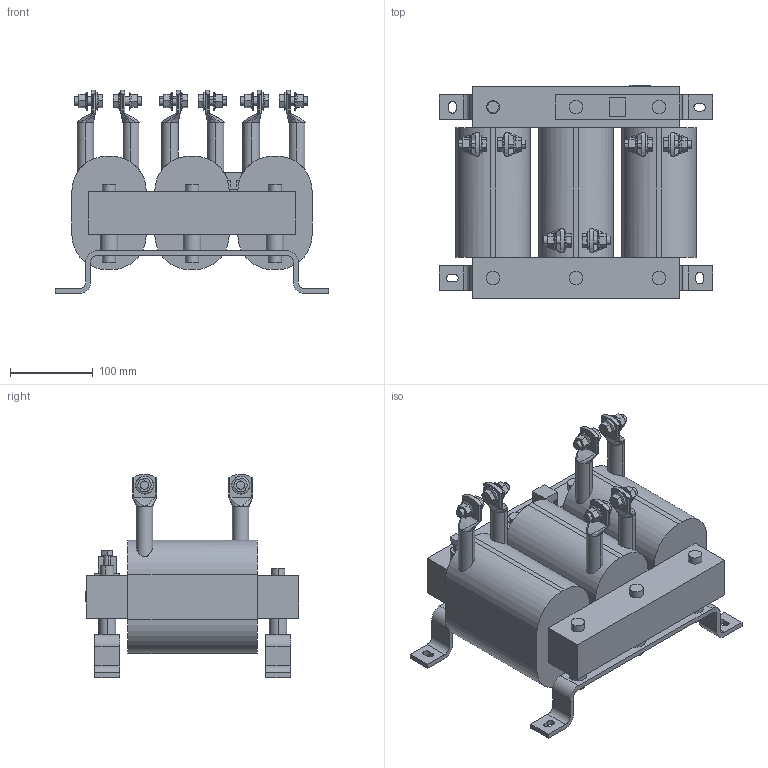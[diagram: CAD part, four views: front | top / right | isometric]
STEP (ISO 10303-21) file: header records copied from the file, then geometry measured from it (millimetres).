
FILE_DESCRIPTION (( 'STEP AP214' ), '1' );
FILE_NAME ('00Z1BX0-0026.STEP', '2024-05-15T07:39:01', ( '' ), ( '' ), 'SwSTEP 2.0', 'SolidWorks 2022', '' );
FILE_SCHEMA (( 'AUTOMOTIVE_DESIGN' ));
Length unit declared in the file: millimetre
Products named in the file (1): 00Z1BX0-0026
Bounding box: 330 x 257.52 x 244.92 mm (x, y, z)
Volume: 6703655.6 mm3; surface area: 425627.1 mm2
Topology: 1 solids, 1 shells, 573 faces, 1425 edges, 914 vertices
Faces by surface type: plane 279, cylinder 197, bspline 61, cone 24, torus 12
Entity records: 21632 total; most frequent: CARTESIAN_POINT 8252, ORIENTED_EDGE 2850, DIRECTION 2457, EDGE_CURVE 1425, VERTEX_POINT 914, AXIS2_PLACEMENT_3D 861, VECTOR 735, LINE 735
